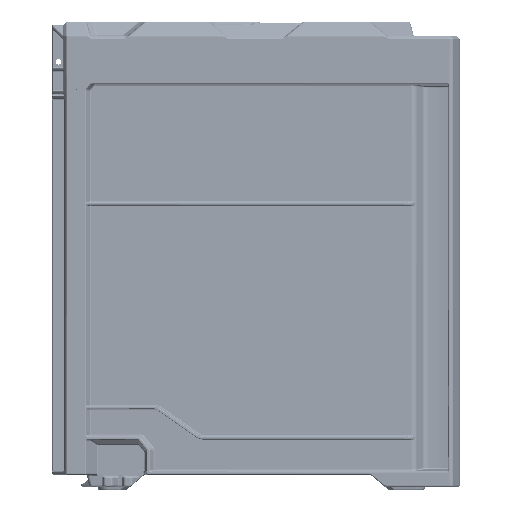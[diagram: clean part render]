
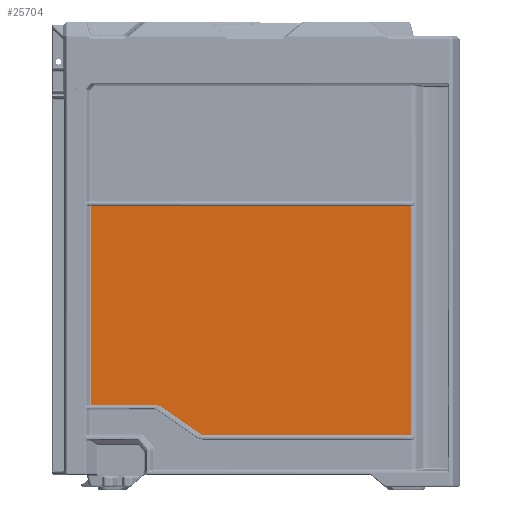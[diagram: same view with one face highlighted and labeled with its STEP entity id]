
A CAD part, left-side view. The second image highlights one B-rep face of the part: STEP entity #25704.
In plain terms, the highlighted planar face has unit normal (-1, 0, 0).
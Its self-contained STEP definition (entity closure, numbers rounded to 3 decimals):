
#7633=ELLIPSE('',#223163,8.314,7.5);
#7634=ELLIPSE('',#223164,4.989,4.5);
#12129=PLANE('',#223165);
#25704=ADVANCED_FACE('',(#43967),#12129,.T.);
#43967=FACE_OUTER_BOUND('',#57631,.T.);
#57631=EDGE_LOOP('',(#88585,#88586,#88587,#88588,#88589,#88590,#88591,#88592));
#88585=ORIENTED_EDGE('',*,*,#168482,.T.);
#88586=ORIENTED_EDGE('',*,*,#168483,.T.);
#88587=ORIENTED_EDGE('',*,*,#168484,.T.);
#88588=ORIENTED_EDGE('',*,*,#168485,.T.);
#88589=ORIENTED_EDGE('',*,*,#168486,.T.);
#88590=ORIENTED_EDGE('',*,*,#168487,.T.);
#88591=ORIENTED_EDGE('',*,*,#168488,.T.);
#88592=ORIENTED_EDGE('',*,*,#168489,.T.);
#146667=VERTEX_POINT('',#330161);
#146668=VERTEX_POINT('',#330162);
#146669=VERTEX_POINT('',#330164);
#146670=VERTEX_POINT('',#330166);
#146671=VERTEX_POINT('',#330168);
#146672=VERTEX_POINT('',#330170);
#146673=VERTEX_POINT('',#330172);
#146674=VERTEX_POINT('',#330174);
#168482=EDGE_CURVE('',#146667,#146668,#7633,.T.);
#168483=EDGE_CURVE('',#146668,#146669,#197688,.T.);
#168484=EDGE_CURVE('',#146669,#146670,#7634,.T.);
#168485=EDGE_CURVE('',#146670,#146671,#197689,.T.);
#168486=EDGE_CURVE('',#146671,#146672,#197690,.T.);
#168487=EDGE_CURVE('',#146672,#146673,#197691,.T.);
#168488=EDGE_CURVE('',#146673,#146674,#197692,.T.);
#168489=EDGE_CURVE('',#146674,#146667,#197693,.T.);
#197688=LINE('',#330163,#209437);
#197689=LINE('',#330167,#209438);
#197690=LINE('',#330169,#209439);
#197691=LINE('',#330171,#209440);
#197692=LINE('',#330173,#209441);
#197693=LINE('',#330175,#209442);
#209437=VECTOR('',#251314,1.);
#209438=VECTOR('',#251317,1.);
#209439=VECTOR('',#251318,1.);
#209440=VECTOR('',#251319,1.);
#209441=VECTOR('',#251320,1.);
#209442=VECTOR('',#251321,1.);
#223163=AXIS2_PLACEMENT_3D('',#330160,#251312,#251313);
#223164=AXIS2_PLACEMENT_3D('',#330165,#251315,#251316);
#223165=AXIS2_PLACEMENT_3D('',#330176,#251322,#251323);
#251312=DIRECTION('',(1.,0.,0.));
#251313=DIRECTION('',(0.,-0.998,0.06));
#251314=DIRECTION('',(0.,-0.819,-0.574));
#251315=DIRECTION('',(-1.,0.,0.));
#251316=DIRECTION('',(0.,0.998,-0.06));
#251317=DIRECTION('',(0.,-1.,0.));
#251318=DIRECTION('',(0.,0.,1.));
#251319=DIRECTION('',(0.,1.,0.));
#251320=DIRECTION('',(0.,0.,-1.));
#251321=DIRECTION('',(0.,-1.,0.));
#251322=DIRECTION('',(-1.,0.,0.));
#251323=DIRECTION('',(0.,0.,-1.));
#330160=CARTESIAN_POINT('',(-192.5,-74.733,-250.873));
#330161=CARTESIAN_POINT('',(-192.5,-74.836,-243.37));
#330162=CARTESIAN_POINT('',(-192.5,-79.877,-244.923));
#330163=CARTESIAN_POINT('',(-192.5,-79.987,-244.999));
#330164=CARTESIAN_POINT('',(-192.5,-107.748,-264.438));
#330165=CARTESIAN_POINT('',(-192.5,-110.835,-260.868));
#330166=CARTESIAN_POINT('',(-192.5,-110.773,-265.37));
#330167=CARTESIAN_POINT('',(-192.5,-111.005,-265.37));
#330168=CARTESIAN_POINT('',(-192.5,-260.493,-265.37));
#330169=CARTESIAN_POINT('',(-192.5,-260.493,-290.969));
#330170=CARTESIAN_POINT('',(-192.5,-260.493,-98.63));
#330171=CARTESIAN_POINT('',(-192.5,0.,-98.63));
#330172=CARTESIAN_POINT('',(-192.5,-28.093,-98.63));
#330173=CARTESIAN_POINT('',(-192.5,-28.093,0.));
#330174=CARTESIAN_POINT('',(-192.5,-28.093,-243.37));
#330175=CARTESIAN_POINT('',(-192.5,-28.093,-243.37));
#330176=CARTESIAN_POINT('',(-192.5,0.,0.));
